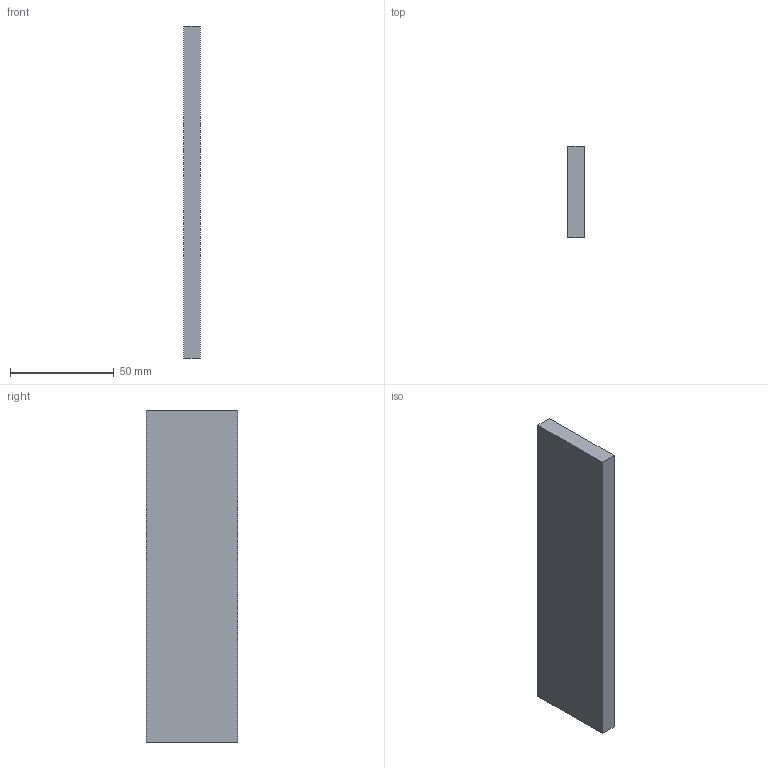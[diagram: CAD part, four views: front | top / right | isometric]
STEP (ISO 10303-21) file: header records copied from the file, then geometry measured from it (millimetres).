
FILE_DESCRIPTION(('FreeCAD Model'),'2;1');
FILE_NAME('Open CASCADE Shape Model','2026-11-09T00:40:30',('FreeCAD'),( 'FreeCAD'),'Open CASCADE STEP processor 7.8','FreeCAD','Unknown');
FILE_SCHEMA(('AUTOMOTIVE_DESIGN { 1 0 10303 214 1 1 1 1 }'));
Length unit declared in the file: millimetre
Products named in the file (1): Open CASCADE STEP translator 7.8 8
Bounding box: 8 x 44 x 160 mm (x, y, z)
Volume: 56320 mm3; surface area: 17344 mm2
Topology: 1 solids, 1 shells, 6 faces, 12 edges, 8 vertices
Faces by surface type: plane 6
Entity records: 166 total; most frequent: CARTESIAN_POINT 27, DIRECTION 26, ORIENTED_EDGE 24, EDGE_CURVE 12, LINE 12, VECTOR 12, VERTEX_POINT 8, AXIS2_PLACEMENT_3D 7
